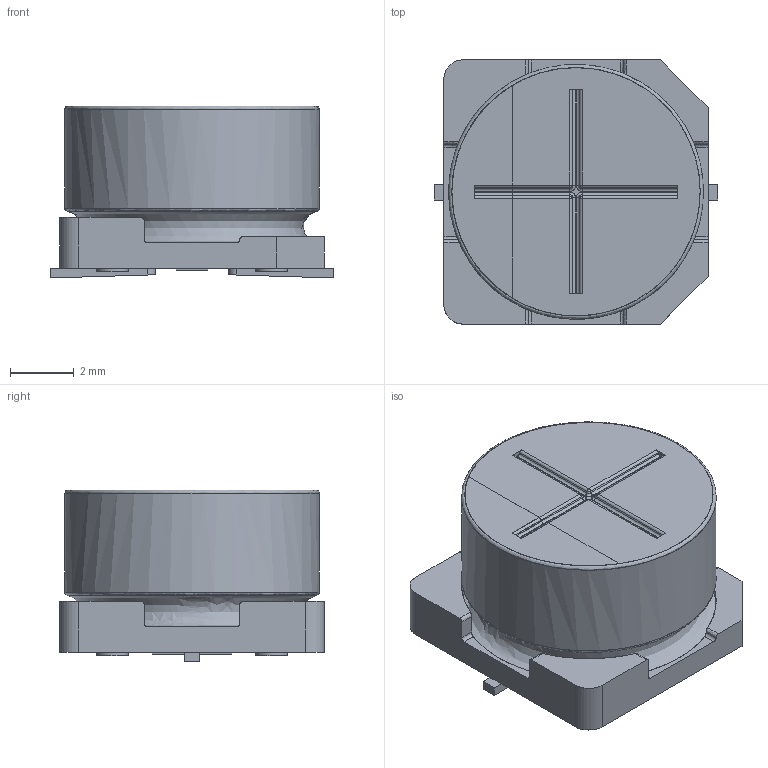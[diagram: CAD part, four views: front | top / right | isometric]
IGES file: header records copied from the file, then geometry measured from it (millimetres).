
Start section: JAMA-IS VERSION  1.0
Bounding box: 8.9 x 8.3 x 5.4 mm (x, y, z)
Surface area: 425.5 mm2 (no closed solid volume)
Topology: 0 solids, 0 shells, 132 faces, 1288 edges, 1270 vertices
Faces by surface type: bspline 132
